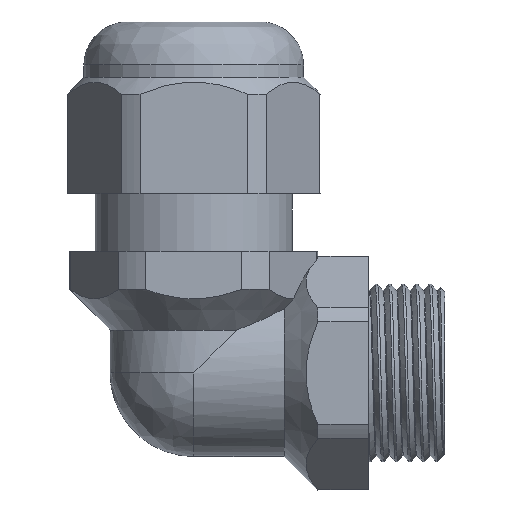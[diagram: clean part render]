
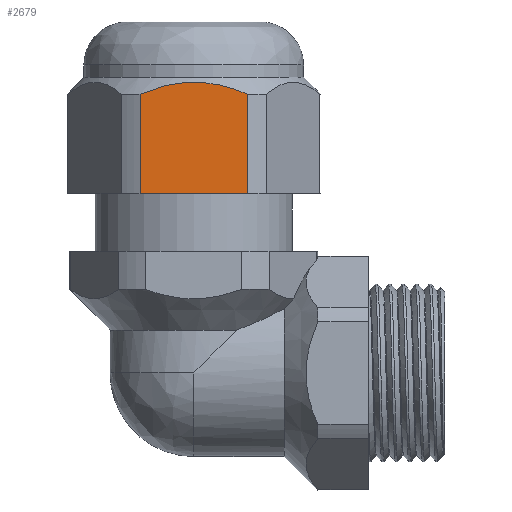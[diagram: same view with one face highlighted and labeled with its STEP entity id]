
A CAD part, front view. The second image highlights one B-rep face of the part: STEP entity #2679.
In plain terms, the highlighted planar face has unit normal (0, -1, 0).
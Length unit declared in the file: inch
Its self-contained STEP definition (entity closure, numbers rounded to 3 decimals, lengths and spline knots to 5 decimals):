
#56 = CARTESIAN_POINT ( 'NONE',  ( 0.22118, -0.47244, 0.64764 ) ) ;
#193 = CARTESIAN_POINT ( 'NONE',  ( 0.18587, -0.47244, 0.66261 ) ) ;
#326 = CARTESIAN_POINT ( 'NONE',  ( 0.14944, -0.47244, 0.67508 ) ) ;
#343 = CARTESIAN_POINT ( 'NONE',  ( 0.07568, -0.47244, 0.69217 ) ) ;
#374 = FACE_OUTER_BOUND ( 'NONE', #5100, .T. ) ;
#387 = CARTESIAN_POINT ( 'NONE',  ( 0.03818, -0.47244, 0.69686 ) ) ;
#404 = CARTESIAN_POINT ( 'NONE',  ( 0.22118, -0.47244, 0.23622 ) ) ;
#414 = CARTESIAN_POINT ( 'NONE',  ( -0.00964, -0.47244, 0.69685 ) ) ;
#419 = LINE ( 'NONE', #1039, #3991 ) ;
#534 = CARTESIAN_POINT ( 'NONE',  ( -0.01928, -0.47244, 0.69655 ) ) ;
#588 = CARTESIAN_POINT ( 'NONE',  ( -0.03843, -0.47244, 0.69539 ) ) ;
#623 = CARTESIAN_POINT ( 'NONE',  ( -0.04793, -0.47244, 0.69452 ) ) ;
#756 = CARTESIAN_POINT ( 'NONE',  ( -0.07625, -0.47244, 0.6911 ) ) ;
#770 = CARTESIAN_POINT ( 'NONE',  ( -0.09487, -0.47244, 0.68775 ) ) ;
#836 = VERTEX_POINT ( 'NONE', #4993 ) ;
#996 = DIRECTION ( 'NONE',  ( -1., 0., 0. ) ) ;
#1001 = CARTESIAN_POINT ( 'NONE',  ( -0.22118, -0.47244, 0.64764 ) ) ;
#1039 = CARTESIAN_POINT ( 'NONE',  ( -0.40551, -0.47244, 0.23622 ) ) ;
#1046 = CARTESIAN_POINT ( 'NONE',  ( -0.15004, -0.47244, 0.67489 ) ) ;
#1706 = CARTESIAN_POINT ( 'NONE',  ( 0.22118, -0.47244, 0. ) ) ;
#1747 = DIRECTION ( 'NONE',  ( 0., 0., -1. ) ) ;
#1753 = DIRECTION ( 'NONE',  ( 0., 0., -1. ) ) ;
#1887 = ORIENTED_EDGE ( 'NONE', *, *, #3152, .F. ) ;
#1970 = CARTESIAN_POINT ( 'NONE',  ( -0.18593, -0.47244, 0.66258 ) ) ;
#2074 = ORIENTED_EDGE ( 'NONE', *, *, #2821, .F. ) ;
#2513 = EDGE_CURVE ( 'NONE', #4300, #2966, #3177, .T. ) ;
#2679 = ADVANCED_FACE ( 'NONE', ( #374 ), #3360, .T. ) ;
#2821 = EDGE_CURVE ( 'NONE', #2966, #4764, #4110, .T. ) ;
#2907 = LINE ( 'NONE', #4171, #3078 ) ;
#2966 = VERTEX_POINT ( 'NONE', #3552 ) ;
#3078 = VECTOR ( 'NONE', #1753, 39.37008 ) ;
#3152 = EDGE_CURVE ( 'NONE', #4764, #836, #419, .T. ) ;
#3177 = B_SPLINE_CURVE_WITH_KNOTS ( 'NONE', 3,
 ( #1001, #1970, #1046, #770, #756, #623, #588, #534, #414, #387, #343, #326, #193, #56 ),
 .UNSPECIFIED., .F., .F.,
 ( 4, 2, 2, 2, 2, 2, 4 ),
 ( 0., 0.00288, 0.00432, 0.00504, 0.00576, 0.00863, 0.01151 ),
 .UNSPECIFIED. ) ;
#3242 = ORIENTED_EDGE ( 'NONE', *, *, #3368, .T. ) ;
#3263 = VECTOR ( 'NONE', #1747, 39.37008 ) ;
#3264 = DIRECTION ( 'NONE',  ( 0., 0., -1. ) ) ;
#3280 = DIRECTION ( 'NONE',  ( 0., -1., 0. ) ) ;
#3360 = PLANE ( 'NONE',  #4155 ) ;
#3368 = EDGE_CURVE ( 'NONE', #4300, #836, #2907, .T. ) ;
#3429 = CARTESIAN_POINT ( 'NONE',  ( 0.27276, -0.47244, 0.94488 ) ) ;
#3552 = CARTESIAN_POINT ( 'NONE',  ( 0.22118, -0.47244, 0.64764 ) ) ;
#3991 = VECTOR ( 'NONE', #996, 39.37008 ) ;
#4110 = LINE ( 'NONE', #1706, #3263 ) ;
#4155 = AXIS2_PLACEMENT_3D ( 'NONE', #3429, #3280, #3264 ) ;
#4171 = CARTESIAN_POINT ( 'NONE',  ( -0.22118, -0.47244, 0.94488 ) ) ;
#4225 = ORIENTED_EDGE ( 'NONE', *, *, #2513, .F. ) ;
#4300 = VERTEX_POINT ( 'NONE', #5090 ) ;
#4764 = VERTEX_POINT ( 'NONE', #404 ) ;
#4993 = CARTESIAN_POINT ( 'NONE',  ( -0.22118, -0.47244, 0.23622 ) ) ;
#5090 = CARTESIAN_POINT ( 'NONE',  ( -0.22118, -0.47244, 0.64764 ) ) ;
#5100 = EDGE_LOOP ( 'NONE', ( #4225, #3242, #1887, #2074 ) ) ;
